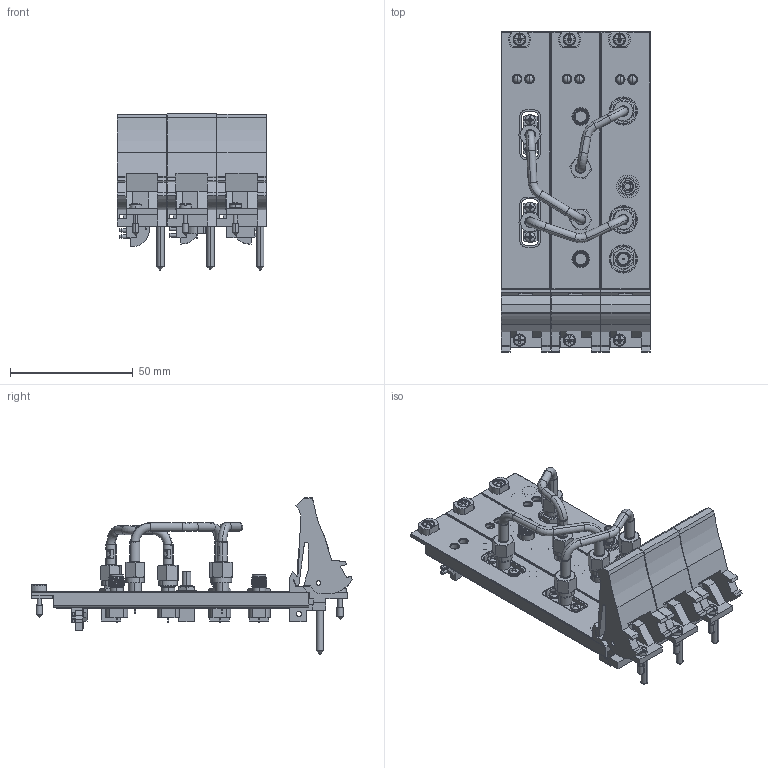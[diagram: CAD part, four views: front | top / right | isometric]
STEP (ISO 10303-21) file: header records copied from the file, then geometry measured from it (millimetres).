
FILE_DESCRIPTION((''),'2;1');
FILE_NAME('CU_PXI-5663','2009-09-17T',('jjorden'),(''),'PRO/ENGINEER BY PARAMETRIC TECHNOLOGY CORPORATION, 2006080','PRO/ENGINEER BY PARAMETRIC TECHNOLOGY CORPORATION, 2006080','');
FILE_SCHEMA(('CONFIG_CONTROL_DESIGN'));
Products named in the file (1): CU_PXI-5663
Bounding box: 60.95 x 130.53 x 63.56 mm (x, y, z)
Volume: 56237.3 mm3; surface area: 58375.8 mm2
Topology: 12 solids, 16 shells, 2880 faces, 7735 edges, 4838 vertices
Faces by surface type: plane 1722, cylinder 720, cone 172, bspline 128, torus 92, sphere 46
Entity records: 116232 total; most frequent: CARTESIAN_POINT 44901, ORIENTED_EDGE 15238, DIRECTION 14376, EDGE_CURVE 7619, AXIS2_PLACEMENT_3D 4957, VERTEX_POINT 4952, VECTOR 4462, LINE 4462
